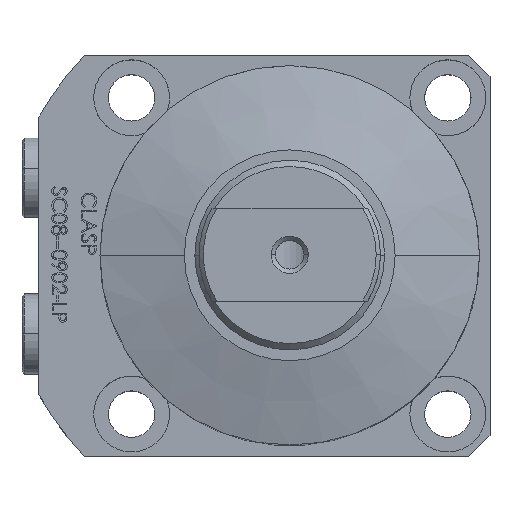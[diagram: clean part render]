
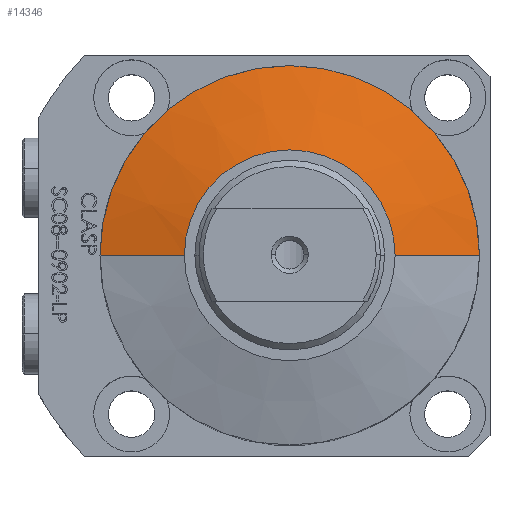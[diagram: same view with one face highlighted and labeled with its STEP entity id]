
A CAD part, top view. The second image highlights one B-rep face of the part: STEP entity #14346.
In plain terms, the highlighted conical face has half-angle 75 degrees and reference radius 88.478 mm.
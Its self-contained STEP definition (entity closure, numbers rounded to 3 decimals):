
#154 = AXIS2_PLACEMENT_3D ( 'NONE', #3683, #12770, #4964 ) ;
#1806 = CARTESIAN_POINT ( 'NONE',  ( -45., 0., 108.641 ) ) ;
#2425 = CONICAL_SURFACE ( 'NONE', #3216, 88.478, 1.309 ) ;
#2440 = VECTOR ( 'NONE', #15815, 1000. ) ;
#2448 = CARTESIAN_POINT ( 'NONE',  ( 0., 0., 96.991 ) ) ;
#3216 = AXIS2_PLACEMENT_3D ( 'NONE', #2448, #6313, #16818 ) ;
#3318 = VERTEX_POINT ( 'NONE', #6120 ) ;
#3544 = CARTESIAN_POINT ( 'NONE',  ( 88.478, 0., 96.991 ) ) ;
#3683 = CARTESIAN_POINT ( 'NONE',  ( 0., 0., 114. ) ) ;
#4123 = EDGE_CURVE ( 'NONE', #6576, #4499, #16739, .T. ) ;
#4384 = LINE ( 'NONE', #3544, #10472 ) ;
#4499 = VERTEX_POINT ( 'NONE', #9204 ) ;
#4964 = DIRECTION ( 'NONE',  ( -1., 0., 0. ) ) ;
#4989 = EDGE_LOOP ( 'NONE', ( #13322, #15133, #10438, #16629 ) ) ;
#5909 = LINE ( 'NONE', #6667, #2440 ) ;
#6120 = CARTESIAN_POINT ( 'NONE',  ( 25., 0., 114. ) ) ;
#6313 = DIRECTION ( 'NONE',  ( 0., 0., -1. ) ) ;
#6576 = VERTEX_POINT ( 'NONE', #1806 ) ;
#6667 = CARTESIAN_POINT ( 'NONE',  ( -88.478, 0., 96.991 ) ) ;
#6701 = FACE_OUTER_BOUND ( 'NONE', #4989, .T. ) ;
#7714 = DIRECTION ( 'NONE',  ( 0., 0., -1. ) ) ;
#8727 = EDGE_CURVE ( 'NONE', #15155, #6576, #5909, .T. ) ;
#9204 = CARTESIAN_POINT ( 'NONE',  ( 45., 0., 108.641 ) ) ;
#10438 = ORIENTED_EDGE ( 'NONE', *, *, #4123, .F. ) ;
#10472 = VECTOR ( 'NONE', #15167, 1000. ) ;
#12770 = DIRECTION ( 'NONE',  ( 0., 0., -1. ) ) ;
#12838 = AXIS2_PLACEMENT_3D ( 'NONE', #15530, #7714, #16900 ) ;
#13322 = ORIENTED_EDGE ( 'NONE', *, *, #16551, .T. ) ;
#13607 = EDGE_CURVE ( 'NONE', #3318, #4499, #4384, .T. ) ;
#14010 = CARTESIAN_POINT ( 'NONE',  ( -25., 0., 114. ) ) ;
#14346 = ADVANCED_FACE ( 'NONE', ( #6701 ), #2425, .T. ) ;
#14426 = CIRCLE ( 'NONE', #154, 25. ) ;
#15133 = ORIENTED_EDGE ( 'NONE', *, *, #13607, .T. ) ;
#15155 = VERTEX_POINT ( 'NONE', #14010 ) ;
#15167 = DIRECTION ( 'NONE',  ( 0.966, 0., -0.259 ) ) ;
#15530 = CARTESIAN_POINT ( 'NONE',  ( 0., 0., 108.641 ) ) ;
#15815 = DIRECTION ( 'NONE',  ( -0.966, 0., -0.259 ) ) ;
#16551 = EDGE_CURVE ( 'NONE', #15155, #3318, #14426, .T. ) ;
#16629 = ORIENTED_EDGE ( 'NONE', *, *, #8727, .F. ) ;
#16739 = CIRCLE ( 'NONE', #12838, 45. ) ;
#16818 = DIRECTION ( 'NONE',  ( -1., 0., 0. ) ) ;
#16900 = DIRECTION ( 'NONE',  ( -1., 0., 0. ) ) ;
